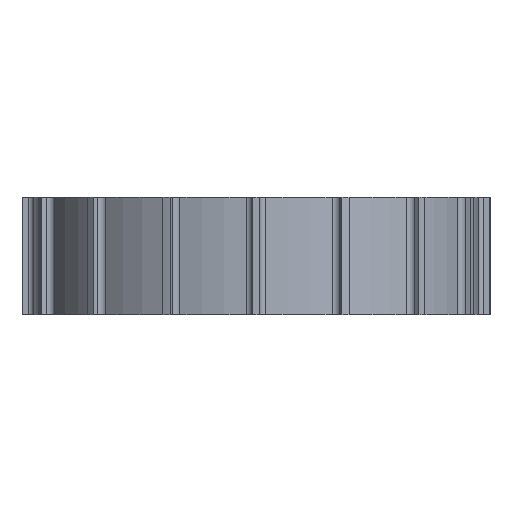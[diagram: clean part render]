
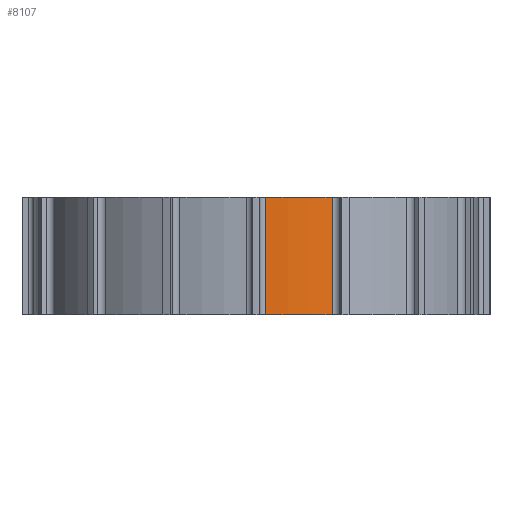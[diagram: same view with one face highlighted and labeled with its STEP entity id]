
A CAD part, front view. The second image highlights one B-rep face of the part: STEP entity #8107.
In plain terms, the highlighted cylindrical face has radius 57 mm (diameter 114 mm), a partial arc.
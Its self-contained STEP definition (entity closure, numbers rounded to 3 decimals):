
#72 = EDGE_CURVE ( 'NONE', #6795, #1288, #9330, .T. ) ;
#139 = CARTESIAN_POINT ( 'NONE',  ( 0., 0., 30. ) ) ;
#925 = DIRECTION ( 'NONE',  ( -1., 0., 0. ) ) ;
#930 = CARTESIAN_POINT ( 'NONE',  ( 2.436, -56.948, -5.749 ) ) ;
#981 = FACE_OUTER_BOUND ( 'NONE', #10240, .T. ) ;
#1010 = EDGE_CURVE ( 'NONE', #3362, #6795, #8681, .T. ) ;
#1288 = VERTEX_POINT ( 'NONE', #10741 ) ;
#2527 = DIRECTION ( 'NONE',  ( 1., 0., 0. ) ) ;
#2569 = AXIS2_PLACEMENT_3D ( 'NONE', #139, #10361, #925 ) ;
#2624 = CARTESIAN_POINT ( 'NONE',  ( 19.543, -53.545, 0. ) ) ;
#2807 = CYLINDRICAL_SURFACE ( 'NONE', #2569, 57. ) ;
#3362 = VERTEX_POINT ( 'NONE', #10940 ) ;
#3756 = ORIENTED_EDGE ( 'NONE', *, *, #9863, .F. ) ;
#4292 = ORIENTED_EDGE ( 'NONE', *, *, #1010, .T. ) ;
#5045 = VECTOR ( 'NONE', #7528, 1000. ) ;
#5150 = CARTESIAN_POINT ( 'NONE',  ( 2.436, -56.948, 30. ) ) ;
#5472 = AXIS2_PLACEMENT_3D ( 'NONE', #11037, #7755, #9399 ) ;
#6087 = ORIENTED_EDGE ( 'NONE', *, *, #72, .T. ) ;
#6402 = DIRECTION ( 'NONE',  ( 0., 0., 1. ) ) ;
#6795 = VERTEX_POINT ( 'NONE', #2624 ) ;
#6850 = CARTESIAN_POINT ( 'NONE',  ( 0., 0., 0. ) ) ;
#7054 = VECTOR ( 'NONE', #6402, 1000. ) ;
#7479 = CIRCLE ( 'NONE', #5472, 57. ) ;
#7528 = DIRECTION ( 'NONE',  ( 0., 0., 1. ) ) ;
#7755 = DIRECTION ( 'NONE',  ( 0., 0., 1. ) ) ;
#8005 = EDGE_CURVE ( 'NONE', #9668, #1288, #7479, .T. ) ;
#8107 = ADVANCED_FACE ( 'NONE', ( #981 ), #2807, .T. ) ;
#8681 = CIRCLE ( 'NONE', #9576, 57. ) ;
#9130 = ORIENTED_EDGE ( 'NONE', *, *, #8005, .F. ) ;
#9330 = LINE ( 'NONE', #11072, #5045 ) ;
#9399 = DIRECTION ( 'NONE',  ( 1., 0., 0. ) ) ;
#9576 = AXIS2_PLACEMENT_3D ( 'NONE', #6850, #10299, #2527 ) ;
#9623 = LINE ( 'NONE', #930, #7054 ) ;
#9668 = VERTEX_POINT ( 'NONE', #5150 ) ;
#9863 = EDGE_CURVE ( 'NONE', #3362, #9668, #9623, .T. ) ;
#10240 = EDGE_LOOP ( 'NONE', ( #4292, #6087, #9130, #3756 ) ) ;
#10299 = DIRECTION ( 'NONE',  ( 0., 0., 1. ) ) ;
#10361 = DIRECTION ( 'NONE',  ( 0., 0., -1. ) ) ;
#10741 = CARTESIAN_POINT ( 'NONE',  ( 19.543, -53.545, 30. ) ) ;
#10940 = CARTESIAN_POINT ( 'NONE',  ( 2.436, -56.948, 0. ) ) ;
#11037 = CARTESIAN_POINT ( 'NONE',  ( 0., 0., 30. ) ) ;
#11072 = CARTESIAN_POINT ( 'NONE',  ( 19.543, -53.545, -6.107 ) ) ;
